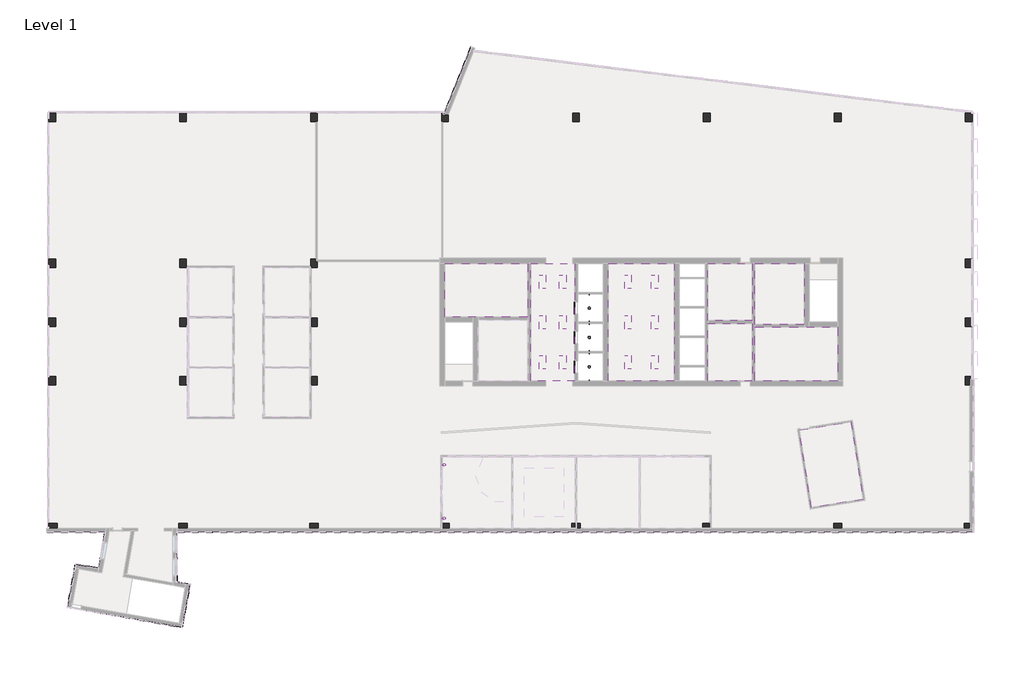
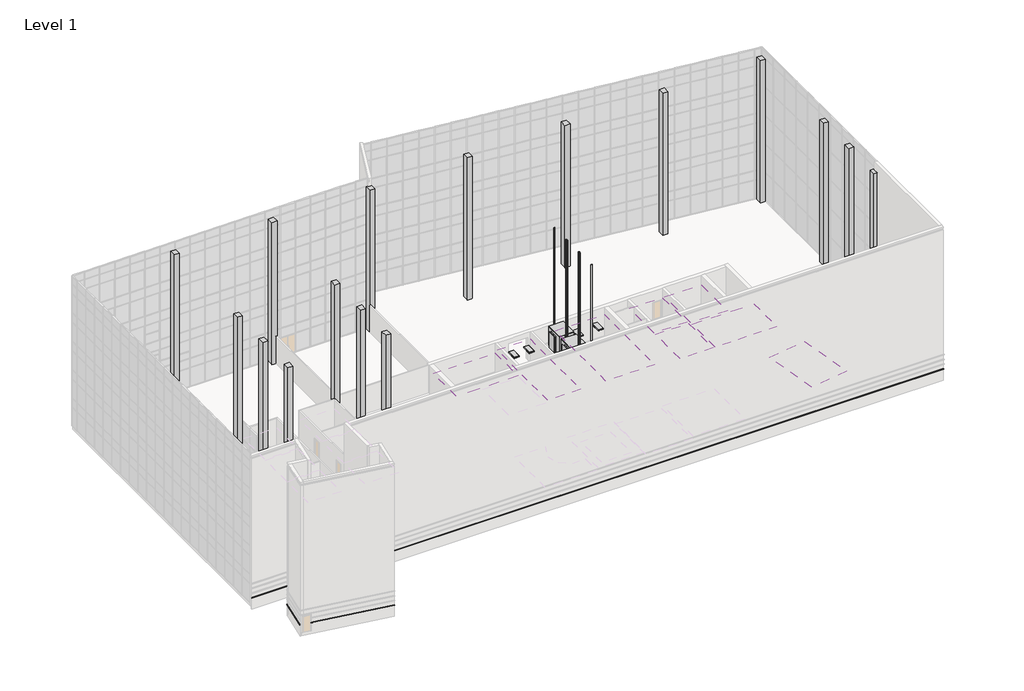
# One storey, part 23 of 23: 28 columns, 17 proxies, 14 light fixtures, 8 coverings.
"""IFC4 building model written with IfcOpenShell, lengths in millimetres."""

from ifc_helpers import new_model, si_unit, frame, origin, origin_with_axes, place, context, project, spatial, polyline, outline, extrude, faceted_brep, transform, mapped, element, save
from components import proxy_3500_lbs_8e23d717, proxy_7fed659c, concrete_rectangular_column_24_x_30_a0fa8d21, troffer_light_2x4_parabolic_2_x4_2_lamp_120v_ca384779, wall_lamp_bracket_100w_120v_72483117

model = new_model("IFC4")

# Units and contexts
model_context = context("Model", 3, world=origin())
ifc_project = project(units=[si_unit("LENGTHUNIT", "METRE", prefix="MILLI")], contexts=[model_context])

# Site, building, storey
site = spatial("IfcSite", under=ifc_project)
building = spatial("IfcBuilding", under=site)
storey = spatial("IfcBuildingStorey", under=building, Name="Level 1", Elevation=0.0)

# Proxies
placement = place(None, origin())
element("IfcBuildingElementProxy", 1, Name="Wall Sweeps", at=placement, inside=storey, context=model_context, shape_type="Brep", body=[
    faceted_brep([(15090.9304088, -27990.1353492, 1085.85), (15183.0054088, -28082.2103492, 1085.85), (15217.9304088, -28117.1353492, 1041.4), (15217.9304088, -28117.1353492, 1016.0), (15090.9304088, -27990.1353492, 1016.0), (-57168.1625003, -27990.1353492, 1085.85), (-57168.1625003, -27990.1353492, 1016.0), (-57041.1625003, -28117.1353492, 1016.0), (-57041.1625003, -28117.1353492, 1041.4), (-57076.0875003, -28082.2103492, 1085.85), (-57076.0875003, -27990.1353492, 1085.85), (-57076.0875003, -27990.1353492, 1016.0)], [[[0, 1, 2, 3, 4]], [[5, 6, 7, 8, 9]], [[1, 0, 10, 5, 9]], [[2, 1, 9, 8]], [[3, 2, 8, 7]], [[4, 3, 7, 6, 11]], [[0, 4, 11, 6, 5, 10]]]),
])
element("IfcBuildingElementProxy", 2, Name="Wall Sweeps", at=placement, inside=storey, context=model_context, shape_type="Brep", body=[
    faceted_brep([(-63907.0723883, -30506.6915786, 1085.85), (-63907.0723883, -30506.6915786, 1016.0), (-63997.7485622, -30490.7029226, 1016.0), (-64032.142973, -30484.63826, 1016.0), (-64032.142973, -30484.63826, 1041.4), (-63997.7485622, -30490.7029226, 1085.85), (-64081.0179385, -31493.1858149, 1085.85), (-64155.7054564, -31386.5209851, 1085.85), (-64184.0352046, -31346.0619117, 1041.4), (-64184.0352046, -31346.0619117, 1016.0), (-64081.0179385, -31493.1858149, 1016.0)], [[[0, 1, 2, 3, 4, 5]], [[6, 7, 8, 9, 10]], [[0, 5, 7, 6]], [[5, 4, 8, 7]], [[4, 3, 9, 8]], [[3, 2, 1, 10, 9]], [[1, 0, 6, 10]]]),
    faceted_brep([(-63463.3356266, -27990.1353492, 1085.85), (-63463.3356266, -27990.1353492, 1016.0), (-63614.6883329, -28117.1353492, 1016.0), (-63614.6883329, -28117.1353492, 1041.4), (-63573.0663387, -28082.2103492, 1085.85), (-63642.4325656, -29005.844563, 1085.85), (-63733.1087394, -28989.855907, 1085.85), (-63767.5031502, -28983.7912444, 1041.4), (-63767.5031502, -28983.7912444, 1016.0), (-63733.1087394, -28989.855907, 1016.0), (-63642.4325656, -29005.844563, 1016.0)], [[[0, 1, 2, 3, 4]], [[5, 6, 7, 8, 9, 10]], [[0, 4, 6, 5]], [[4, 3, 7, 6]], [[3, 2, 8, 7]], [[2, 1, 10, 9, 8]], [[1, 0, 5, 10]]]),
])
element("IfcBuildingElementProxy", 3, Name="Wall Sweeps", at=placement, inside=storey, context=model_context, shape_type="Brep", body=[
    faceted_brep([(-64081.0179385, -31493.1858149, 1085.85), (-64081.0179385, -31493.1858149, 1016.0), (-64184.0352046, -31346.0619117, 1016.0), (-64184.0352046, -31346.0619117, 1041.4), (-64155.7054564, -31386.5209851, 1085.85), (-66182.2037603, -31122.690063, 1085.85), (-66256.8912782, -31016.0252332, 1085.85), (-66285.2210264, -30975.5661598, 1041.4), (-66285.2210264, -30975.5661598, 1016.0), (-66182.2037603, -31122.690063, 1016.0), (-64171.6941124, -31477.1971589, 1085.85), (-64171.6941124, -31477.1971589, 1016.0)], [[[0, 1, 2, 3, 4]], [[5, 6, 7, 8, 9]], [[0, 4, 6, 5, 10]], [[4, 3, 7, 6]], [[3, 2, 8, 7]], [[2, 1, 11, 9, 8]], [[1, 0, 10, 5, 9, 11]]]),
])
element("IfcBuildingElementProxy", 4, Name="Wall Sweeps", at=placement, inside=storey, context=model_context, shape_type="Brep", body=[
    faceted_brep([(-66182.2037603, -31122.690063, 1085.85), (-66182.2037603, -31122.690063, 1016.0), (-66285.2210264, -30975.5661598, 1016.0), (-66285.2210264, -30975.5661598, 1041.4), (-66256.8912782, -31016.0252332, 1085.85), (-66854.2786436, -34934.2161297, 1085.85), (-66944.9548174, -34918.2274737, 1085.85), (-66979.3492282, -34912.1628111, 1041.4), (-66979.3492282, -34912.1628111, 1016.0), (-66944.9548174, -34918.2274737, 1016.0), (-66854.2786436, -34934.2161297, 1016.0), (-66227.4130634, -31379.0847615, 1085.85), (-66227.4130634, -31379.0847615, 1016.0)], [[[0, 1, 2, 3, 4]], [[5, 6, 7, 8, 9, 10]], [[0, 4, 6, 5, 11]], [[4, 3, 7, 6]], [[3, 2, 8, 7]], [[2, 1, 12, 10, 9, 8]], [[1, 0, 11, 5, 10, 12]]]),
])
element("IfcBuildingElementProxy", 5, Name="Wall Sweeps", at=placement, inside=storey, context=model_context, shape_type="Brep", body=[
    faceted_brep([(-65768.936489, -35032.0958295, 1085.85), (-65768.936489, -35032.0958295, 1016.0), (-65784.925145, -35122.7720034, 1016.0), (-65790.9898076, -35157.1664142, 1016.0), (-65790.9898076, -35157.1664142, 1041.4), (-65784.925145, -35122.7720034, 1085.85), (-56654.4176339, -36639.2314199, 1085.85), (-56579.730116, -36745.8962497, 1085.85), (-56551.4003678, -36786.3553231, 1041.4), (-56551.4003678, -36786.3553231, 1016.0), (-56654.4176339, -36639.2314199, 1016.0)], [[[0, 1, 2, 3, 4, 5]], [[6, 7, 8, 9, 10]], [[0, 5, 7, 6]], [[5, 4, 8, 7]], [[4, 3, 9, 8]], [[3, 2, 1, 10, 9]], [[1, 0, 6, 10]]]),
])
element("IfcBuildingElementProxy", 6, Name="Wall Sweeps", at=placement, inside=storey, context=model_context, shape_type="Brep", body=[
    faceted_brep([(-56654.4176339, -36639.2314199, 1085.85), (-56654.4176339, -36639.2314199, 1016.0), (-56551.4003678, -36786.3553231, 1016.0), (-56551.4003678, -36786.3553231, 1041.4), (-56579.730116, -36745.8962497, 1085.85), (-55998.3314066, -32918.3815271, 1085.85), (-55891.6665768, -32843.6940092, 1085.85), (-55851.2075034, -32815.364261, 1041.4), (-55851.2075034, -32815.364261, 1016.0), (-55998.3314066, -32918.3815271, 1016.0), (-56609.2083309, -36382.8367214, 1085.85), (-56609.2083309, -36382.8367214, 1016.0)], [[[0, 1, 2, 3, 4]], [[5, 6, 7, 8, 9]], [[0, 4, 6, 5, 10]], [[4, 3, 7, 6]], [[3, 2, 8, 7]], [[2, 1, 11, 9, 8]], [[1, 0, 10, 5, 9, 11]]]),
])
element("IfcBuildingElementProxy", 7, Name="Wall Sweeps", at=placement, inside=storey, context=model_context, shape_type="Brep", body=[
    faceted_brep([(-55998.3314066, -32918.3815271, 1085.85), (-55998.3314066, -32918.3815271, 1016.0), (-55851.2075034, -32815.364261, 1016.0), (-55851.2075034, -32815.364261, 1041.4), (-55891.6665768, -32843.6940092, 1085.85), (-57168.1625003, -32712.1087424, 1085.85), (-57076.0875003, -32634.8486438, 1085.85), (-57041.1625003, -32605.5430892, 1041.4), (-57041.1625003, -32605.5430892, 1016.0), (-57168.1625003, -32712.1087424, 1016.0), (-56254.7261051, -32873.172224, 1085.85), (-56254.7261051, -32873.172224, 1016.0)], [[[0, 1, 2, 3, 4]], [[5, 6, 7, 8, 9]], [[0, 4, 6, 5, 10]], [[4, 3, 7, 6]], [[3, 2, 8, 7]], [[2, 1, 11, 9, 8]], [[1, 0, 10, 5, 9, 11]]]),
])
element("IfcBuildingElementProxy", 8, Name="Wall Sweeps", at=placement, inside=storey, context=model_context, shape_type="Brep", body=[
    faceted_brep([(-57168.1625003, -28391.7728492, 1085.85), (-57168.1625003, -28391.7728492, 1016.0), (-57076.0875003, -28391.7728492, 1016.0), (-57041.1625003, -28391.7728492, 1016.0), (-57041.1625003, -28391.7728492, 1041.4), (-57076.0875003, -28391.7728492, 1085.85), (-57168.1625003, -27990.1353492, 1085.85), (-57076.0875003, -28082.2103492, 1085.85), (-57041.1625003, -28117.1353492, 1041.4), (-57041.1625003, -28117.1353492, 1016.0), (-57168.1625003, -27990.1353492, 1016.0)], [[[0, 1, 2, 3, 4, 5]], [[6, 7, 8, 9, 10]], [[0, 5, 7, 6]], [[5, 4, 8, 7]], [[4, 3, 9, 8]], [[3, 2, 1, 10, 9]], [[1, 0, 6, 10]]]),
    faceted_brep([(-57168.1625003, -30525.3728492, 1085.85), (-57168.1625003, -30525.3728492, 1016.0), (-57076.0875003, -30525.3728492, 1016.0), (-57041.1625003, -30525.3728492, 1016.0), (-57041.1625003, -30525.3728492, 1041.4), (-57076.0875003, -30525.3728492, 1085.85), (-57168.1625003, -29915.7728492, 1085.85), (-57076.0875003, -29915.7728492, 1085.85), (-57041.1625003, -29915.7728492, 1041.4), (-57041.1625003, -29915.7728492, 1016.0), (-57076.0875003, -29915.7728492, 1016.0), (-57168.1625003, -29915.7728492, 1016.0)], [[[0, 1, 2, 3, 4, 5]], [[6, 7, 8, 9, 10, 11]], [[0, 5, 7, 6]], [[5, 4, 8, 7]], [[4, 3, 9, 8]], [[3, 2, 1, 11, 10, 9]], [[1, 0, 6, 11]]]),
    faceted_brep([(-57168.1625003, -32712.1087424, 1085.85), (-57168.1625003, -32712.1087424, 1016.0), (-57041.1625003, -32605.5430892, 1016.0), (-57041.1625003, -32605.5430892, 1041.4), (-57076.0875003, -32634.8486438, 1085.85), (-57168.1625003, -32049.3728492, 1085.85), (-57076.0875003, -32049.3728492, 1085.85), (-57041.1625003, -32049.3728492, 1041.4), (-57041.1625003, -32049.3728492, 1016.0), (-57076.0875003, -32049.3728492, 1016.0), (-57168.1625003, -32049.3728492, 1016.0), (-57168.1625003, -32618.6133371, 1085.85), (-57168.1625003, -32618.6133371, 1016.0)], [[[0, 1, 2, 3, 4]], [[5, 6, 7, 8, 9, 10]], [[0, 4, 6, 5, 11]], [[4, 3, 7, 6]], [[3, 2, 8, 7]], [[2, 1, 12, 10, 9, 8]], [[1, 0, 11, 5, 10, 12]]]),
])
element("IfcBuildingElementProxy", 9, Name="Wall Sweeps", at=placement, inside=storey, context=model_context, shape_type="Brep", body=[
    faceted_brep([(-63463.3356266, -27990.1353492, 1085.85), (-63573.0663387, -28082.2103492, 1085.85), (-63614.6883329, -28117.1353492, 1041.4), (-63614.6883329, -28117.1353492, 1016.0), (-63463.3356266, -27990.1353492, 1016.0), (-68878.5489105, -27990.1353492, 1085.85), (-68878.5489105, -27990.1353492, 1016.0), (-68878.5489105, -28082.2103492, 1016.0), (-68878.5489105, -28117.1353492, 1016.0), (-68878.5489105, -28117.1353492, 1041.4), (-68878.5489105, -28082.2103492, 1085.85), (-63556.8310319, -27990.1353492, 1085.85), (-63556.8310319, -27990.1353492, 1016.0)], [[[0, 1, 2, 3, 4]], [[5, 6, 7, 8, 9, 10]], [[1, 0, 11, 5, 10]], [[2, 1, 10, 9]], [[3, 2, 9, 8]], [[4, 3, 8, 7, 6, 12]], [[0, 4, 12, 6, 5, 11]]]),
])
element("IfcBuildingElementProxy", 10, Name="Wall Sweeps", at=placement, inside=storey, context=model_context, shape_type="Brep", body=[
    faceted_brep([(-32762.8098895, 9770.5727487, 1085.85), (-32848.1803429, 9805.0646508, 1085.85), (-32880.5622391, 9818.1477861, 1041.4), (-32880.5622391, 9818.1477861, 1016.0), (-32762.8098895, 9770.5727487, 1016.0), (-30279.0815275, 15918.016165, 1085.85), (-30279.0815275, 15918.016165, 1016.0), (-30364.4519809, 15952.5080671, 1016.0), (-30396.833877, 15965.5912024, 1016.0), (-30396.833877, 15965.5912024, 1041.4), (-30364.4519809, 15952.5080671, 1085.85), (-32748.8742565, 9805.0646508, 1085.85), (-32748.8742565, 9805.0646508, 1016.0)], [[[0, 1, 2, 3, 4]], [[5, 6, 7, 8, 9, 10]], [[1, 0, 11, 5, 10]], [[2, 1, 10, 9]], [[3, 2, 9, 8]], [[4, 3, 8, 7, 6, 12]], [[0, 4, 12, 6, 5, 11]]]),
])
element("IfcBuildingElementProxy", 11, Name="Wall Sweeps", at=placement, inside=storey, context=model_context, shape_type="Brep", body=[
    faceted_brep([(15090.9304088, -14142.3728492, 1085.85), (15183.0054088, -14142.3728492, 1085.85), (15217.9304088, -14142.3728492, 1041.4), (15217.9304088, -14142.3728492, 1016.0), (15183.0054088, -14142.3728492, 1016.0), (15090.9304088, -14142.3728492, 1016.0), (15090.9304088, -21686.0488327, 1085.85), (15090.9304088, -21686.0488327, 1016.0), (15183.0054088, -21686.0488327, 1016.0), (15217.9304088, -21686.0488327, 1016.0), (15217.9304088, -21686.0488327, 1041.4), (15183.0054088, -21686.0488327, 1085.85)], [[[0, 1, 2, 3, 4, 5]], [[6, 7, 8, 9, 10, 11]], [[1, 0, 6, 11]], [[2, 1, 11, 10]], [[3, 2, 10, 9]], [[5, 4, 3, 9, 8, 7]], [[0, 5, 7, 6]]]),
    faceted_brep([(15090.9304088, -22600.4488327, 1085.85), (15183.0054088, -22600.4488327, 1085.85), (15217.9304088, -22600.4488327, 1041.4), (15217.9304088, -22600.4488327, 1016.0), (15183.0054088, -22600.4488327, 1016.0), (15090.9304088, -22600.4488327, 1016.0), (15090.9304088, -27990.1353492, 1085.85), (15090.9304088, -27990.1353492, 1016.0), (15217.9304088, -28117.1353492, 1016.0), (15217.9304088, -28117.1353492, 1041.4), (15183.0054088, -28082.2103492, 1085.85), (15090.9304088, -27729.7853492, 1085.85), (15090.9304088, -27729.7853492, 1016.0)], [[[0, 1, 2, 3, 4, 5]], [[6, 7, 8, 9, 10]], [[1, 0, 11, 6, 10]], [[2, 1, 10, 9]], [[3, 2, 9, 8]], [[5, 4, 3, 8, 7, 12]], [[0, 5, 12, 7, 6, 11]]]),
])
proxy_3500_lbs_shape = proxy_3500_lbs_8e23d717(model_context)
element("IfcBuildingElementProxy", 12, Name="Elevator-Hydraulic[1] : 3500 lbs", ObjectType="Elevator-Hydraulic[1] : 3500 lbs", at=placement, inside=storey, context=model_context, shape_type="MappedRepresentation", body=[
    mapped(proxy_3500_lbs_shape, transform((-19661.1503332, -13088.7633527, 0.0), x_axis=(0.0, -1.0, 0.0), y_axis=(1.0, 0.0, 0.0), z_axis=(0.0, 0.0, 1.0))),
])
element("IfcBuildingElementProxy", 13, Name="Elevator-Hydraulic[1] : 3500 lbs", ObjectType="Elevator-Hydraulic[1] : 3500 lbs", at=placement, inside=storey, context=model_context, shape_type="MappedRepresentation", body=[
    mapped(proxy_3500_lbs_shape, transform((-19661.1503332, -10421.7633527, 0.0), x_axis=(0.0, -1.0, 0.0), y_axis=(1.0, 0.0, 0.0), z_axis=(0.0, 0.0, 1.0))),
])
element("IfcBuildingElementProxy", 14, Name="Elevator-Hydraulic[1] : 3500 lbs", ObjectType="Elevator-Hydraulic[1] : 3500 lbs", at=placement, inside=storey, context=model_context, shape_type="MappedRepresentation", body=[
    mapped(proxy_3500_lbs_shape, transform((-19661.1503332, -7754.7633527, 0.0), x_axis=(0.0, -1.0, 0.0), y_axis=(1.0, 0.0, 0.0), z_axis=(0.0, 0.0, 1.0))),
])
proxy_shape = proxy_7fed659c(model_context)
element("IfcBuildingElementProxy", 15, Name="Elevator%20Door-Center[1] : 42\" x 84\"", ObjectType="Elevator%20Door-Center[1] : 42\" x 84\"", at=placement, inside=storey, context=model_context, shape_type="MappedRepresentation", body=[
    mapped(proxy_shape, transform((-20852.1285069, -7663.0747049, 0.0), x_axis=(0.0, 1.0, 0.0), y_axis=(-1.0, 0.0, 0.0), z_axis=(0.0, 0.0, 1.0))),
])
element("IfcBuildingElementProxy", 16, Name="Elevator%20Door-Center[1] : 42\" x 84\"", ObjectType="Elevator%20Door-Center[1] : 42\" x 84\"", at=placement, inside=storey, context=model_context, shape_type="MappedRepresentation", body=[
    mapped(proxy_shape, transform((-20852.1285069, -10330.0747049, 0.0), x_axis=(0.0, 1.0, 0.0), y_axis=(-1.0, 0.0, 0.0), z_axis=(0.0, 0.0, 1.0))),
])
element("IfcBuildingElementProxy", 17, Name="Elevator%20Door-Center[1] : 42\" x 84\"", ObjectType="Elevator%20Door-Center[1] : 42\" x 84\"", at=placement, inside=storey, context=model_context, shape_type="MappedRepresentation", body=[
    mapped(proxy_shape, transform((-20852.1285069, -12997.0747049, 0.0), x_axis=(0.0, 1.0, 0.0), y_axis=(-1.0, 0.0, 0.0), z_axis=(0.0, 0.0, 1.0))),
])

# Columns
element("IfcColumn", 18, ObjectType="Concrete-Rectangular-Column : 24 x 30", at=placement, inside=storey, context=model_context, shape_type="SweptSolid", body=[
    extrude(outline(polyline([(15045.3286359, -13985.2103492), (15045.3286359, -14747.2103492), (14435.7286359, -14747.2103492), (14435.7286359, -13985.2103492), (15045.3286359, -13985.2103492)])), origin_with_axes(), (0.0, 0.0, 1.0), 18288.0),
])
element("IfcColumn", 19, ObjectType="Concrete-Rectangular-Column : 24 x 30", at=placement, inside=storey, context=model_context, shape_type="SweptSolid", body=[
    extrude(outline(polyline([(15045.3286359, -8651.2103492), (15045.3286359, -9413.2103492), (14435.7286359, -9413.2103492), (14435.7286359, -8651.2103492), (15045.3286359, -8651.2103492)])), origin_with_axes(), (0.0, 0.0, 1.0), 18288.0),
])
element("IfcColumn", 20, ObjectType="Concrete-Rectangular-Column : 24 x 30", at=placement, inside=storey, context=model_context, shape_type="SweptSolid", body=[
    extrude(outline(polyline([(15045.3286359, -3317.2103492), (15045.3286359, -4079.2103492), (14435.7286359, -4079.2103492), (14435.7286359, -3317.2103492), (15045.3286359, -3317.2103492)])), origin_with_axes(), (0.0, 0.0, 1.0), 18288.0),
])
element("IfcColumn", 21, ObjectType="Concrete-Rectangular-Column : 24 x 30", at=placement, inside=storey, context=model_context, shape_type="SweptSolid", body=[
    extrude(outline(polyline([(-68063.4713641, -13985.2103492), (-68063.4713641, -14747.2103492), (-68673.0713641, -14747.2103492), (-68673.0713641, -13985.2103492), (-68063.4713641, -13985.2103492)])), origin_with_axes(), (0.0, 0.0, 1.0), 18288.0),
])
element("IfcColumn", 22, ObjectType="Concrete-Rectangular-Column : 24 x 30", at=placement, inside=storey, context=model_context, shape_type="SweptSolid", body=[
    extrude(outline(polyline([(-68063.4713641, -8651.2103492), (-68063.4713641, -9413.2103492), (-68673.0713641, -9413.2103492), (-68673.0713641, -8651.2103492), (-68063.4713641, -8651.2103492)])), origin_with_axes(), (0.0, 0.0, 1.0), 18288.0),
])
element("IfcColumn", 23, ObjectType="Concrete-Rectangular-Column : 24 x 30", at=placement, inside=storey, context=model_context, shape_type="SweptSolid", body=[
    extrude(outline(polyline([(-68063.4713641, -3317.2103492), (-68063.4713641, -4079.2103492), (-68673.0713641, -4079.2103492), (-68673.0713641, -3317.2103492), (-68063.4713641, -3317.2103492)])), origin_with_axes(), (0.0, 0.0, 1.0), 18288.0),
])
element("IfcColumn", 24, ObjectType="Concrete-Rectangular-Column : 24 x 30", at=placement, inside=storey, context=model_context, shape_type="SweptSolid", body=[
    extrude(outline(polyline([(14435.7286359, 9154.1896508), (14435.7286359, 9916.1896508), (15045.3286359, 9916.1896508), (15045.3286359, 9154.1896508), (14435.7286359, 9154.1896508)])), origin_with_axes(), (0.0, 0.0, 1.0), 18288.0),
])
element("IfcColumn", 25, ObjectType="Concrete-Rectangular-Column : 24 x 30", at=placement, inside=storey, context=model_context, shape_type="SweptSolid", body=[
    extrude(outline(polyline([(-68673.0713641, 9154.1896508), (-68673.0713641, 9916.1896508), (-68063.4713641, 9916.1896508), (-68063.4713641, 9154.1896508), (-68673.0713641, 9154.1896508)])), origin_with_axes(), (0.0, 0.0, 1.0), 18288.0),
])
element("IfcColumn", 26, ObjectType="Concrete-Rectangular-Column : 24 x 30", at=placement, inside=storey, context=model_context, shape_type="SweptSolid", body=[
    extrude(outline(polyline([(2563.0429217, 9154.1896508), (2563.0429217, 9916.1896508), (3172.6429217, 9916.1896508), (3172.6429217, 9154.1896508), (2563.0429217, 9154.1896508)])), origin_with_axes(), (0.0, 0.0, 1.0), 18288.0),
])
element("IfcColumn", 27, ObjectType="Concrete-Rectangular-Column : 24 x 30", at=placement, inside=storey, context=model_context, shape_type="SweptSolid", body=[
    extrude(outline(polyline([(-9309.6427926, 9154.1896508), (-9309.6427926, 9916.1896508), (-8700.0427926, 9916.1896508), (-8700.0427926, 9154.1896508), (-9309.6427926, 9154.1896508)])), origin_with_axes(), (0.0, 0.0, 1.0), 18288.0),
])
element("IfcColumn", 28, ObjectType="Concrete-Rectangular-Column : 24 x 30", at=placement, inside=storey, context=model_context, shape_type="SweptSolid", body=[
    extrude(outline(polyline([(-21182.3285069, 9154.1896508), (-21182.3285069, 9916.1896508), (-20572.7285069, 9916.1896508), (-20572.7285069, 9154.1896508), (-21182.3285069, 9154.1896508)])), origin_with_axes(), (0.0, 0.0, 1.0), 18288.0),
])
element("IfcColumn", 29, ObjectType="Concrete-Rectangular-Column : 24 x 30", at=placement, inside=storey, context=model_context, shape_type="SweptSolid", body=[
    extrude(outline(polyline([(-33055.0142212, 9154.1896508), (-33055.0142212, 9916.1896508), (-32445.4142212, 9916.1896508), (-32445.4142212, 9154.1896508), (-33055.0142212, 9154.1896508)])), origin_with_axes(), (0.0, 0.0, 1.0), 18288.0),
])
element("IfcColumn", 30, ObjectType="Concrete-Rectangular-Column : 24 x 30", at=placement, inside=storey, context=model_context, shape_type="SweptSolid", body=[
    extrude(outline(polyline([(-44927.6999355, 9154.1896508), (-44927.6999355, 9916.1896508), (-44318.0999355, 9916.1896508), (-44318.0999355, 9154.1896508), (-44927.6999355, 9154.1896508)])), origin_with_axes(), (0.0, 0.0, 1.0), 18288.0),
])
element("IfcColumn", 31, ObjectType="Concrete-Rectangular-Column : 24 x 30", at=placement, inside=storey, context=model_context, shape_type="SweptSolid", body=[
    extrude(outline(polyline([(-56800.3856498, 9154.1896508), (-56800.3856498, 9916.1896508), (-56190.7856498, 9916.1896508), (-56190.7856498, 9154.1896508), (-56800.3856498, 9154.1896508)])), origin_with_axes(), (0.0, 0.0, 1.0), 18288.0),
])
element("IfcColumn", 32, ObjectType="Concrete-Rectangular-Column : 24 x 30", at=placement, inside=storey, context=model_context, shape_type="SweptSolid", body=[
    extrude(outline(polyline([(14359.5286359, -27294.8103492), (15121.5286359, -27294.8103492), (15121.5286359, -27904.4103492), (14359.5286359, -27904.4103492), (14359.5286359, -27294.8103492)])), origin_with_axes(), (0.0, 0.0, 1.0), 18288.0),
])
element("IfcColumn", 33, ObjectType="Concrete-Rectangular-Column : 24 x 30", at=placement, inside=storey, context=model_context, shape_type="SweptSolid", body=[
    extrude(outline(polyline([(-68660.7599961, -27294.8103492), (-67898.7599961, -27294.8103492), (-67898.7599961, -27904.4103492), (-68660.7599961, -27904.4103492), (-68660.7599961, -27294.8103492)])), origin_with_axes(), (0.0, 0.0, 1.0), 18288.0),
])
element("IfcColumn", 34, ObjectType="Concrete-Rectangular-Column : 24 x 30", at=placement, inside=storey, context=model_context, shape_type="SweptSolid", body=[
    extrude(outline(polyline([(2486.8429217, -27294.8103492), (3248.8429217, -27294.8103492), (3248.8429217, -27904.4103492), (2486.8429217, -27904.4103492), (2486.8429217, -27294.8103492)])), origin_with_axes(), (0.0, 0.0, 1.0), 18288.0),
])
element("IfcColumn", 35, ObjectType="Concrete-Rectangular-Column : 24 x 30", at=placement, inside=storey, context=model_context, shape_type="SweptSolid", body=[
    extrude(outline(polyline([(-9385.8427926, -27294.8103492), (-8623.8427926, -27294.8103492), (-8623.8427926, -27904.4103492), (-9385.8427926, -27904.4103492), (-9385.8427926, -27294.8103492)])), origin_with_axes(), (0.0, 0.0, 1.0), 18288.0),
])
element("IfcColumn", 36, ObjectType="Concrete-Rectangular-Column : 24 x 30", at=placement, inside=storey, context=model_context, shape_type="SweptSolid", body=[
    extrude(outline(polyline([(-21258.5285069, -27294.8103492), (-20496.5285069, -27294.8103492), (-20496.5285069, -27904.4103492), (-21258.5285069, -27904.4103492), (-21258.5285069, -27294.8103492)])), origin_with_axes(), (0.0, 0.0, 1.0), 18288.0),
])
element("IfcColumn", 37, ObjectType="Concrete-Rectangular-Column : 24 x 30", at=placement, inside=storey, context=model_context, shape_type="SweptSolid", body=[
    extrude(outline(polyline([(-33131.2142212, -27294.8103492), (-32369.2142212, -27294.8103492), (-32369.2142212, -27904.4103492), (-33131.2142212, -27904.4103492), (-33131.2142212, -27294.8103492)])), origin_with_axes(), (0.0, 0.0, 1.0), 18288.0),
])
element("IfcColumn", 38, ObjectType="Concrete-Rectangular-Column : 24 x 30", at=placement, inside=storey, context=model_context, shape_type="SweptSolid", body=[
    extrude(outline(polyline([(-45003.8999355, -27294.8103492), (-44241.8999355, -27294.8103492), (-44241.8999355, -27904.4103492), (-45003.8999355, -27904.4103492), (-45003.8999355, -27294.8103492)])), origin_with_axes(), (0.0, 0.0, 1.0), 18288.0),
])
element("IfcColumn", 39, ObjectType="Concrete-Rectangular-Column : 24 x 30", at=placement, inside=storey, context=model_context, shape_type="SweptSolid", body=[
    extrude(outline(polyline([(-56876.5856498, -27294.8103492), (-56114.5856498, -27294.8103492), (-56114.5856498, -27904.4103492), (-56876.5856498, -27904.4103492), (-56876.5856498, -27294.8103492)])), origin_with_axes(), (0.0, 0.0, 1.0), 18288.0),
])
concrete_rectangular_column_24_x_30_shape = concrete_rectangular_column_24_x_30_a0fa8d21(model_context)
element("IfcColumn", 40, ObjectType="Concrete-Rectangular-Column : 24 x 30", at=placement, inside=storey, context=model_context, shape_type="MappedRepresentation", body=[
    mapped(concrete_rectangular_column_24_x_30_shape, transform((-44622.8999355, -14366.2103492, 0.0), x_axis=(1.0, 0.0, 0.0), y_axis=(0.0, 1.0, 0.0), z_axis=(0.0, 0.0, 1.0))),
])
element("IfcColumn", 41, ObjectType="Concrete-Rectangular-Column : 24 x 30", at=placement, inside=storey, context=model_context, shape_type="MappedRepresentation", body=[
    mapped(concrete_rectangular_column_24_x_30_shape, transform((-56495.5856498, -14366.2103492, 0.0), x_axis=(1.0, 0.0, 0.0), y_axis=(0.0, 1.0, 0.0), z_axis=(0.0, 0.0, 1.0))),
])
element("IfcColumn", 42, ObjectType="Concrete-Rectangular-Column : 24 x 30", at=placement, inside=storey, context=model_context, shape_type="MappedRepresentation", body=[
    mapped(concrete_rectangular_column_24_x_30_shape, transform((-44622.8999355, -9032.2103492, 0.0), x_axis=(1.0, 0.0, 0.0), y_axis=(0.0, 1.0, 0.0), z_axis=(0.0, 0.0, 1.0))),
])
element("IfcColumn", 43, ObjectType="Concrete-Rectangular-Column : 24 x 30", at=placement, inside=storey, context=model_context, shape_type="MappedRepresentation", body=[
    mapped(concrete_rectangular_column_24_x_30_shape, transform((-56495.5856498, -9032.2103492, 0.0), x_axis=(1.0, 0.0, 0.0), y_axis=(0.0, 1.0, 0.0), z_axis=(0.0, 0.0, 1.0))),
])
element("IfcColumn", 44, ObjectType="Concrete-Rectangular-Column : 24 x 30", at=placement, inside=storey, context=model_context, shape_type="MappedRepresentation", body=[
    mapped(concrete_rectangular_column_24_x_30_shape, transform((-44622.8999355, -3698.2103492, 0.0), x_axis=(1.0, 0.0, 0.0), y_axis=(0.0, 1.0, 0.0), z_axis=(0.0, 0.0, 1.0))),
])
element("IfcColumn", 45, ObjectType="Concrete-Rectangular-Column : 24 x 30", at=placement, inside=storey, context=model_context, shape_type="MappedRepresentation", body=[
    mapped(concrete_rectangular_column_24_x_30_shape, transform((-56495.5856498, -3698.2103492, 0.0), x_axis=(1.0, 0.0, 0.0), y_axis=(0.0, 1.0, 0.0), z_axis=(0.0, 0.0, 1.0))),
])

# Coverings
element("IfcCovering", 46, ObjectType="2' x 4' ACT System", at=placement, inside=storey, context=model_context, shape_type="SweptSolid", body=[
    extrude(outline(polyline([(5175.4713993, -25116.831377), (484.1493191, -25859.8637991), (-629.14639, -18830.7913293), (4062.1756902, -18087.7589073), (5175.4713993, -25116.831377)])), frame((0.0, 0.0, 2438.4), z_axis=(0.0, 0.0, 1.0), x_axis=(1.0, 0.0, 0.0)), (0.0, 0.0, 1.0), 57.15),
])
element("IfcCovering", 47, ObjectType="2' x 4' ACT System", at=placement, inside=storey, context=model_context, shape_type="SweptSolid", body=[
    extrude(outline(polyline([(2867.8429217, -14366.2103492), (-4636.0427926, -14366.2103492), (-4636.0427926, -9489.4103492), (55.7000645, -9489.4103492), (2867.8429217, -9489.4103492), (2867.8429217, -14366.2103492)])), frame((0.0, 0.0, 2438.4), z_axis=(0.0, 0.0, 1.0), x_axis=(1.0, 0.0, 0.0)), (0.0, 0.0, 1.0), 57.15),
])
element("IfcCovering", 48, ObjectType="2' x 4' ACT System", at=placement, inside=storey, context=model_context, shape_type="SweptSolid", body=[
    extrude(outline(polyline([(-4636.0427926, -3698.2103492), (-172.8999355, -3698.2103492), (-172.8999355, -9235.4103492), (-4636.0427926, -9235.4103492), (-4636.0427926, -3698.2103492)])), frame((0.0, 0.0, 2438.4), z_axis=(0.0, 0.0, 1.0), x_axis=(1.0, 0.0, 0.0)), (0.0, 0.0, 1.0), 57.15),
])
element("IfcCovering", 49, ObjectType="2' x 4' ACT System", at=placement, inside=storey, context=model_context, shape_type="SweptSolid", body=[
    extrude(outline(polyline([(-8903.2427926, -3698.2103492), (-4890.0427926, -3698.2103492), (-4890.0427926, -8905.2103492), (-8903.2427926, -8905.2103492), (-8903.2427926, -3698.2103492)])), frame((0.0, 0.0, 2438.4), z_axis=(0.0, 0.0, 1.0), x_axis=(1.0, 0.0, 0.0)), (0.0, 0.0, 1.0), 57.15),
])
element("IfcCovering", 50, ObjectType="2' x 4' ACT System", at=placement, inside=storey, context=model_context, shape_type="SweptSolid", body=[
    extrude(outline(polyline([(-4890.0427926, -9159.2103492), (-4890.0427926, -14366.2103492), (-8903.2427926, -14366.2103492), (-8903.2427926, -9159.2103492), (-4890.0427926, -9159.2103492)])), frame((0.0, 0.0, 2438.4), z_axis=(0.0, 0.0, 1.0), x_axis=(1.0, 0.0, 0.0)), (0.0, 0.0, 1.0), 57.15),
])
element("IfcCovering", 51, ObjectType="2' x 4' ACT System", at=placement, inside=storey, context=model_context, shape_type="SweptSolid", body=[
    extrude(outline(polyline([(-24992.3285069, -14366.2103492), (-24992.3285069, -3698.2103492), (-20979.1285069, -3698.2103492), (-20979.1285069, -14366.2103492), (-24992.3285069, -14366.2103492)]), holes=[polyline([(-21766.5285069, -13299.4103492), (-21766.5285069, -12080.2103492), (-22376.1285069, -12080.2103492), (-22376.1285069, -13299.4103492), (-21766.5285069, -13299.4103492)]), polyline([(-23595.3285069, -13299.4103492), (-23595.3285069, -12080.2103492), (-24204.9285069, -12080.2103492), (-24204.9285069, -13299.4103492), (-23595.3285069, -13299.4103492)]), polyline([(-21766.5285069, -9641.8103492), (-21766.5285069, -8422.6103492), (-22376.1285069, -8422.6103492), (-22376.1285069, -9641.8103492), (-21766.5285069, -9641.8103492)]), polyline([(-23595.3285069, -9641.8103492), (-23595.3285069, -8422.6103492), (-24204.9285069, -8422.6103492), (-24204.9285069, -9641.8103492), (-23595.3285069, -9641.8103492)]), polyline([(-21766.5285069, -5984.2103492), (-21766.5285069, -4765.0103492), (-22376.1285069, -4765.0103492), (-22376.1285069, -5984.2103492), (-21766.5285069, -5984.2103492)]), polyline([(-23595.3285069, -5984.2103492), (-23595.3285069, -4765.0103492), (-24204.9285069, -4765.0103492), (-24204.9285069, -5984.2103492), (-23595.3285069, -5984.2103492)])]), frame((0.0, 0.0, 2743.2), z_axis=(0.0, 0.0, 1.0), x_axis=(1.0, 0.0, 0.0)), (0.0, 0.0, 1.0), 57.15),
])
element("IfcCovering", 52, ObjectType="2' x 4' ACT System", at=placement, inside=storey, context=model_context, shape_type="SweptSolid", body=[
    extrude(outline(polyline([(-11954.4428559, -14366.2103492), (-17927.9284437, -14366.2103492), (-17927.9284437, -3698.2103492), (-11954.4428559, -3698.2103492), (-11954.4428559, -14366.2103492)]), holes=[polyline([(-15855.5856498, -13299.4103492), (-15855.5856498, -12080.2103492), (-16465.1856498, -12080.2103492), (-16465.1856498, -13299.4103492), (-15855.5856498, -13299.4103492)]), polyline([(-15855.5856498, -9641.8103492), (-15855.5856498, -8422.6103492), (-16465.1856498, -8422.6103492), (-16465.1856498, -9641.8103492), (-15855.5856498, -9641.8103492)]), polyline([(-15855.5856498, -5984.2103492), (-15855.5856498, -4765.0103492), (-16465.1856498, -4765.0103492), (-16465.1856498, -5984.2103492), (-15855.5856498, -5984.2103492)]), polyline([(-13417.1856498, -13299.4103492), (-13417.1856498, -12080.2103492), (-14026.7856498, -12080.2103492), (-14026.7856498, -13299.4103492), (-13417.1856498, -13299.4103492)]), polyline([(-13417.1856498, -9641.8103492), (-13417.1856498, -8422.6103492), (-14026.7856498, -8422.6103492), (-14026.7856498, -9641.8103492), (-13417.1856498, -9641.8103492)]), polyline([(-13417.1856498, -5984.2103492), (-13417.1856498, -4765.0103492), (-14026.7856498, -4765.0103492), (-14026.7856498, -5984.2103492), (-13417.1856498, -5984.2103492)])]), frame((0.0, 0.0, 2743.2), z_axis=(0.0, 0.0, 1.0), x_axis=(1.0, 0.0, 0.0)), (0.0, 0.0, 1.0), 57.15),
])
element("IfcCovering", 53, ObjectType="GWB on Mtl. Stud", at=placement, inside=storey, context=model_context, shape_type="SweptSolid", body=[
    extrude(outline(polyline([(-32750.2142212, -3698.2103492), (-25246.3285069, -3698.2103492), (-25246.3285069, -8575.0103492), (-29938.0713641, -8575.0103492), (-32750.2142212, -8575.0103492), (-32750.2142212, -3698.2103492)])), frame((0.0, 0.0, 2438.4), z_axis=(0.0, 0.0, 1.0), x_axis=(1.0, 0.0, 0.0)), (0.0, 0.0, 1.0), 107.95),
])

# Light fixtures
troffer_light_2x4_parabolic_2_x4_2_lamp_120v_shape = troffer_light_2x4_parabolic_2_x4_2_lamp_120v_ca384779(model_context)
element("IfcLightFixture", 54, ObjectType="Troffer Light - 2x4 Parabolic : 2'x4'(2 Lamp) - 120V", at=placement, inside=storey, context=model_context, shape_type="MappedRepresentation", body=[
    mapped(troffer_light_2x4_parabolic_2_x4_2_lamp_120v_shape, transform((-16100.9197177, -12708.5138508, 304.8), x_axis=(0.0, -1.0, 0.0), y_axis=(1.0, 0.0, 0.0), z_axis=(0.0, 0.0, 1.0))),
])
element("IfcLightFixture", 55, ObjectType="Troffer Light - 2x4 Parabolic : 2'x4'(2 Lamp) - 120V", at=placement, inside=storey, context=model_context, shape_type="MappedRepresentation", body=[
    mapped(troffer_light_2x4_parabolic_2_x4_2_lamp_120v_shape, transform((-16100.9197177, -9050.9138508, 304.8), x_axis=(0.0, -1.0, 0.0), y_axis=(1.0, 0.0, 0.0), z_axis=(0.0, 0.0, 1.0))),
])
element("IfcLightFixture", 56, ObjectType="Troffer Light - 2x4 Parabolic : 2'x4'(2 Lamp) - 120V", at=placement, inside=storey, context=model_context, shape_type="MappedRepresentation", body=[
    mapped(troffer_light_2x4_parabolic_2_x4_2_lamp_120v_shape, transform((-16100.9197177, -5393.3138508, 304.8), x_axis=(0.0, -1.0, 0.0), y_axis=(1.0, 0.0, 0.0), z_axis=(0.0, 0.0, 1.0))),
])
element("IfcLightFixture", 57, ObjectType="Troffer Light - 2x4 Parabolic : 2'x4'(2 Lamp) - 120V", at=placement, inside=storey, context=model_context, shape_type="MappedRepresentation", body=[
    mapped(troffer_light_2x4_parabolic_2_x4_2_lamp_120v_shape, transform((-13662.5197177, -12708.5138508, 304.8), x_axis=(0.0, -1.0, 0.0), y_axis=(1.0, 0.0, 0.0), z_axis=(0.0, 0.0, 1.0))),
])
element("IfcLightFixture", 58, ObjectType="Troffer Light - 2x4 Parabolic : 2'x4'(2 Lamp) - 120V", at=placement, inside=storey, context=model_context, shape_type="MappedRepresentation", body=[
    mapped(troffer_light_2x4_parabolic_2_x4_2_lamp_120v_shape, transform((-13662.5197177, -9050.9138508, 304.8), x_axis=(0.0, -1.0, 0.0), y_axis=(1.0, 0.0, 0.0), z_axis=(0.0, 0.0, 1.0))),
])
element("IfcLightFixture", 59, ObjectType="Troffer Light - 2x4 Parabolic : 2'x4'(2 Lamp) - 120V", at=placement, inside=storey, context=model_context, shape_type="MappedRepresentation", body=[
    mapped(troffer_light_2x4_parabolic_2_x4_2_lamp_120v_shape, transform((-13662.5197177, -5393.3138508, 304.8), x_axis=(0.0, -1.0, 0.0), y_axis=(1.0, 0.0, 0.0), z_axis=(0.0, 0.0, 1.0))),
])
element("IfcLightFixture", 60, ObjectType="Troffer Light - 2x4 Parabolic : 2'x4'(2 Lamp) - 120V", at=placement, inside=storey, context=model_context, shape_type="MappedRepresentation", body=[
    mapped(troffer_light_2x4_parabolic_2_x4_2_lamp_120v_shape, transform((-22011.8625748, -12708.5138508, 304.8), x_axis=(0.0, -1.0, 0.0), y_axis=(1.0, 0.0, 0.0), z_axis=(0.0, 0.0, 1.0))),
])
element("IfcLightFixture", 61, ObjectType="Troffer Light - 2x4 Parabolic : 2'x4'(2 Lamp) - 120V", at=placement, inside=storey, context=model_context, shape_type="MappedRepresentation", body=[
    mapped(troffer_light_2x4_parabolic_2_x4_2_lamp_120v_shape, transform((-23840.6625748, -12708.5138508, 304.8), x_axis=(0.0, -1.0, 0.0), y_axis=(1.0, 0.0, 0.0), z_axis=(0.0, 0.0, 1.0))),
])
element("IfcLightFixture", 62, ObjectType="Troffer Light - 2x4 Parabolic : 2'x4'(2 Lamp) - 120V", at=placement, inside=storey, context=model_context, shape_type="MappedRepresentation", body=[
    mapped(troffer_light_2x4_parabolic_2_x4_2_lamp_120v_shape, transform((-22011.8625748, -9050.9138508, 304.8), x_axis=(0.0, -1.0, 0.0), y_axis=(1.0, 0.0, 0.0), z_axis=(0.0, 0.0, 1.0))),
])
element("IfcLightFixture", 63, ObjectType="Troffer Light - 2x4 Parabolic : 2'x4'(2 Lamp) - 120V", at=placement, inside=storey, context=model_context, shape_type="MappedRepresentation", body=[
    mapped(troffer_light_2x4_parabolic_2_x4_2_lamp_120v_shape, transform((-23840.6625748, -9050.9138508, 304.8), x_axis=(0.0, -1.0, 0.0), y_axis=(1.0, 0.0, 0.0), z_axis=(0.0, 0.0, 1.0))),
])
element("IfcLightFixture", 64, ObjectType="Troffer Light - 2x4 Parabolic : 2'x4'(2 Lamp) - 120V", at=placement, inside=storey, context=model_context, shape_type="MappedRepresentation", body=[
    mapped(troffer_light_2x4_parabolic_2_x4_2_lamp_120v_shape, transform((-22011.8625748, -5393.3138508, 304.8), x_axis=(0.0, -1.0, 0.0), y_axis=(1.0, 0.0, 0.0), z_axis=(0.0, 0.0, 1.0))),
])
element("IfcLightFixture", 65, ObjectType="Troffer Light - 2x4 Parabolic : 2'x4'(2 Lamp) - 120V", at=placement, inside=storey, context=model_context, shape_type="MappedRepresentation", body=[
    mapped(troffer_light_2x4_parabolic_2_x4_2_lamp_120v_shape, transform((-23840.6625748, -5393.3138508, 304.8), x_axis=(0.0, -1.0, 0.0), y_axis=(1.0, 0.0, 0.0), z_axis=(0.0, 0.0, 1.0))),
])
wall_lamp_bracket_100w_120v_shape = wall_lamp_bracket_100w_120v_72483117(model_context)
element("IfcLightFixture", 66, ObjectType="Wall Lamp - Bracket : 100W - 120V", at=placement, inside=storey, context=model_context, shape_type="MappedRepresentation", body=[
    mapped(wall_lamp_bracket_100w_120v_shape, transform((-33067.7142212, -26875.5535119, -254.0), x_axis=(0.0, -1.0, 0.0), y_axis=(1.0, 0.0, 0.0), z_axis=(0.0, 0.0, 1.0))),
])
element("IfcLightFixture", 67, ObjectType="Wall Lamp - Bracket : 100W - 120V", at=placement, inside=storey, context=model_context, shape_type="MappedRepresentation", body=[
    mapped(wall_lamp_bracket_100w_120v_shape, transform((-33067.7142212, -22024.1535119, -254.0), x_axis=(0.0, -1.0, 0.0), y_axis=(1.0, 0.0, 0.0), z_axis=(0.0, 0.0, 1.0))),
])

save(model, "model.ifc")
